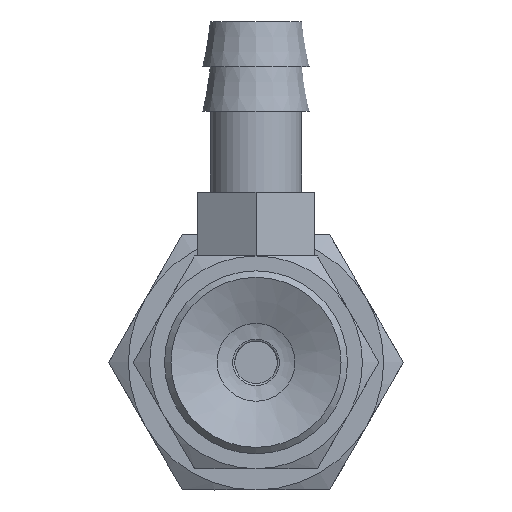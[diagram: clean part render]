
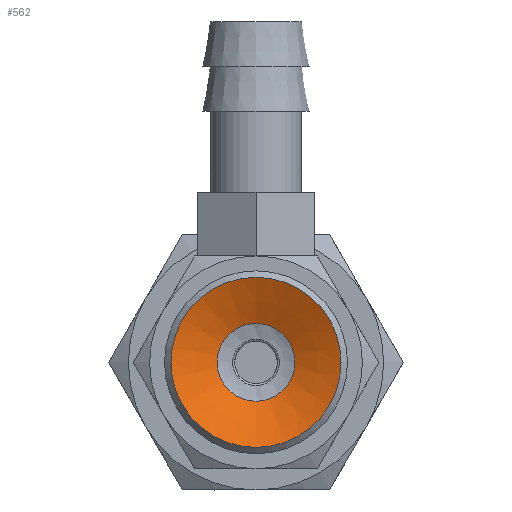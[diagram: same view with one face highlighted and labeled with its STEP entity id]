
A CAD part, front view. The second image highlights one B-rep face of the part: STEP entity #562.
In plain terms, the highlighted conical face has half-angle 65 degrees and reference radius 1.427 mm.
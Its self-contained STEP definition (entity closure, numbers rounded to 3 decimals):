
#562=ADVANCED_FACE('',(#850,#851),#852,.F.);
#850=FACE_BOUND('',#1185,.T.);
#851=FACE_OUTER_BOUND('',#1186,.T.);
#852=CONICAL_SURFACE('',#1187,1.427,1.134);
#1185=EDGE_LOOP('',(#2015));
#1186=EDGE_LOOP('',(#2016));
#1187=AXIS2_PLACEMENT_3D('',#2017,#2018,#2019);
#2015=ORIENTED_EDGE('',*,*,#2373,.T.);
#2016=ORIENTED_EDGE('',*,*,#2363,.T.);
#2017=CARTESIAN_POINT('',(0.0,7.096,0.));
#2018=DIRECTION('',(-0.0,-1.0,0.));
#2019=DIRECTION('',(0.0,0.,-1.0));
#2363=EDGE_CURVE('',#2733,#2733,#2734,.T.);
#2373=EDGE_CURVE('',#2753,#2753,#2754,.T.);
#2733=VERTEX_POINT('',#3565);
#2734=CIRCLE('',#3566,4.0);
#2753=VERTEX_POINT('',#3585);
#2754=CIRCLE('',#3586,1.828);
#3565=CARTESIAN_POINT('',(0.0,5.896,-4.0));
#3566=AXIS2_PLACEMENT_3D('',#3933,#3934,#3935);
#3585=CARTESIAN_POINT('',(0.0,6.909,-1.828));
#3586=AXIS2_PLACEMENT_3D('',#3963,#3964,#3965);
#3933=CARTESIAN_POINT('',(0.0,5.896,0.0));
#3934=DIRECTION('',(0.0,-1.0,0.));
#3935=DIRECTION('',(0.0,0.,-1.0));
#3963=CARTESIAN_POINT('',(0.0,6.909,0.0));
#3964=DIRECTION('',(0.0,1.0,0.));
#3965=DIRECTION('',(0.0,0.,-1.0));
